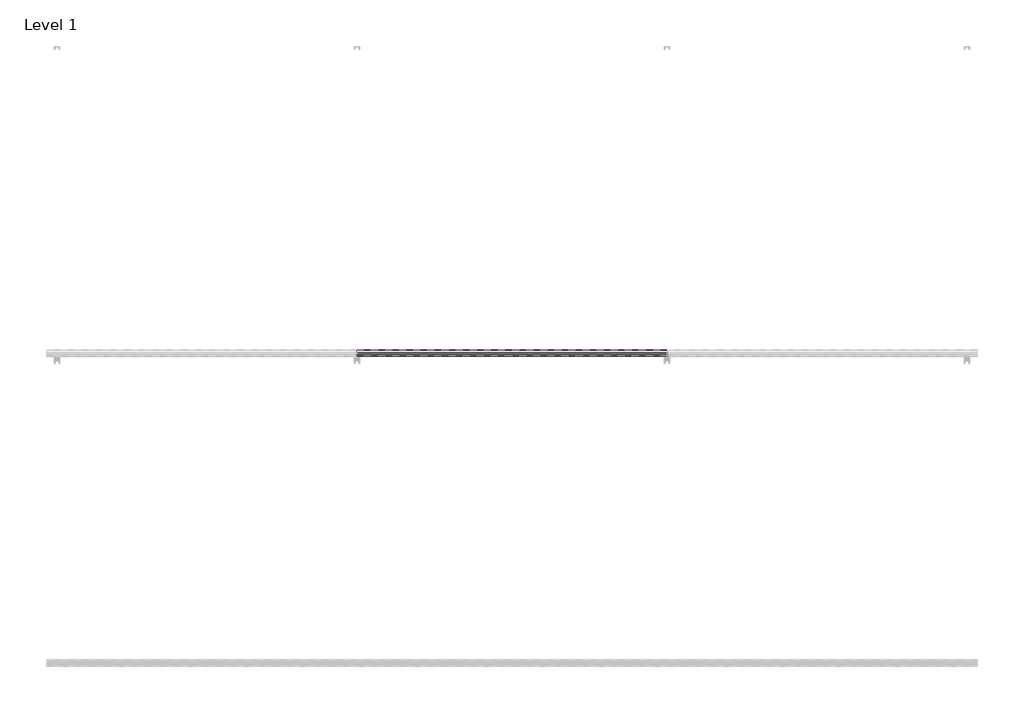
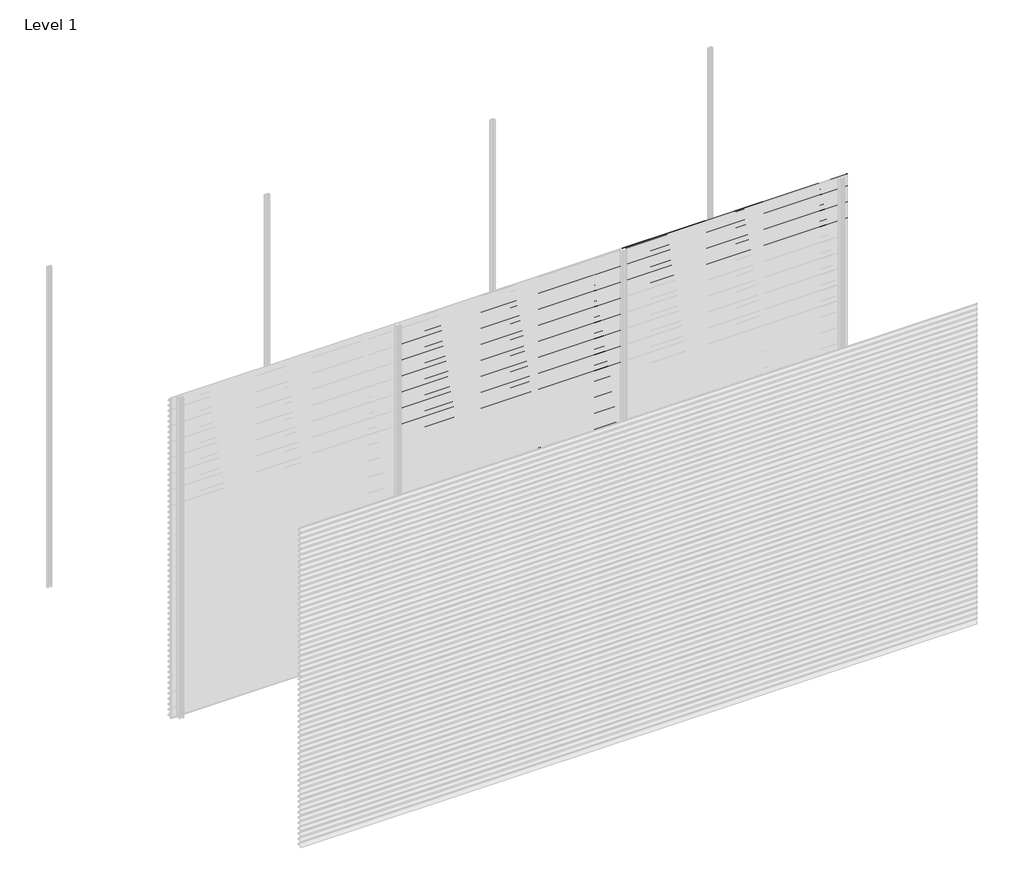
# One storey, part 30 of 38: 66 proxies.
"""IFC4 building model written with IfcOpenShell, lengths in millimetres."""

import ifcopenshell
import ifcopenshell.guid

model = None  # the IFC model being written
_history = None  # IfcOwnerHistory: only IFC2X3 demands one
_inside = {}  # id of a spatial element -> (the spatial element, [elements in it])
_under = {}  # id of a project, library or spatial element -> (it, [spatial elements below it])
_declared = {}  # id of a project -> (the project, [libraries it declares])
_typed = {}  # id of a type object -> (the type object, [elements of that type])
_made_of = {}  # id of a material, layer set ... -> (it, [elements and type objects made of it])


def new_model(schema):
    """Start an empty IFC model of exactly this schema.

    Asked for "IFC4X3", IfcOpenShell would pick the latest addendum, in which some entities
    have other attributes; the version numbers below select the first issue.
    IFC2X3 requires an IfcOwnerHistory on every rooted entity: one is made here for all.
    """
    global model, _history
    if schema == "IFC4X3":
        model = ifcopenshell.file(schema_version=(4, 3, 0, 0))
    else:
        model = ifcopenshell.file(schema=schema)
    _inside.clear()
    _under.clear()
    _declared.clear()
    _typed.clear()
    _made_of.clear()
    _history = None
    if model.schema == "IFC2X3":
        org = make("IfcOrganization", Name="unknown")
        user = make(
            "IfcPersonAndOrganization",
            ThePerson=make("IfcPerson", FamilyName="unknown"),
            TheOrganization=org,
        )
        app = make(
            "IfcApplication",
            ApplicationDeveloper=org,
            Version="unknown",
            ApplicationFullName="unknown",
            ApplicationIdentifier="unknown",
        )
        _history = make(
            "IfcOwnerHistory",
            OwningUser=user,
            OwningApplication=app,
            ChangeAction="ADDED",
            CreationDate=0,
        )
    return model


def make(cls, **values):
    """One entity of the class cls with the attributes given. An attribute that is None is left unset."""
    return model.create_entity(
        cls, **{name: value for name, value in values.items() if value is not None}
    )


def rooted(cls, **values):
    """An entity with a GlobalId (a new one), such as an element, a storey or a relation."""
    return make(cls, GlobalId=ifcopenshell.guid.new(), OwnerHistory=_history, **values)


def si_unit(unit_type, name, prefix=None):
    """IfcSIUnit, for example si_unit("LENGTHUNIT", "METRE", prefix="MILLI")."""
    return make("IfcSIUnit", UnitType=unit_type, Prefix=prefix, Name=name)


def assignment(units):
    """IfcUnitAssignment: the units of a project."""
    return None if units is None else make("IfcUnitAssignment", Units=units)


def point(xyz):
    """IfcCartesianPoint."""
    return None if xyz is None else make("IfcCartesianPoint", Coordinates=xyz)


def direction(xyz):
    """IfcDirection."""
    return None if xyz is None else make("IfcDirection", DirectionRatios=xyz)


def frame(location, z_axis=None, x_axis=None):
    """IfcAxis2Placement3D, a coordinate frame: its origin and axes. An axis left out is left unset."""
    return make(
        "IfcAxis2Placement3D",
        Location=point(location),
        Axis=direction(z_axis),
        RefDirection=direction(x_axis),
    )


def origin():
    """The frame at (0, 0, 0) with its axes left unset."""
    return frame((0.0, 0.0, 0.0))


def place(relative_to, where):
    """IfcLocalPlacement: puts the frame where relative to a parent placement (None: the world)."""
    return make(
        "IfcLocalPlacement", PlacementRelTo=relative_to, RelativePlacement=where
    )


def context(
    kind, dimensions, precision=None, world=None, true_north=None, identifier=None
):
    """IfcGeometricRepresentationContext, for example the 3D "Model" context."""
    return make(
        "IfcGeometricRepresentationContext",
        ContextIdentifier=identifier,
        ContextType=kind,
        CoordinateSpaceDimension=dimensions,
        Precision=precision,
        WorldCoordinateSystem=world,
        TrueNorth=true_north,
    )


def project(units=None, contexts=None):
    """IfcProject with its units and contexts."""
    return rooted(
        "IfcProject",
        Name="project",
        RepresentationContexts=contexts,
        UnitsInContext=assignment(units),
    )


def spatial(cls, under=None, at=None, **own):
    """A site, building, storey or space (cls), placed at a placement, below another one or the project."""
    s = rooted(cls, ObjectPlacement=at, **own)
    if under is not None:
        _under.setdefault(under.id(), (under, []))[1].append(s)
    return s


def polyline(points):
    """IfcPolyline through the points."""
    return make("IfcPolyline", Points=[point(p) for p in points])


def outline(outer, holes=None, kind="AREA"):
    """IfcArbitraryClosedProfileDef: a profile drawn as a closed curve; with holes, ...WithVoids."""
    if holes is None:
        return make("IfcArbitraryClosedProfileDef", ProfileType=kind, OuterCurve=outer)
    return make(
        "IfcArbitraryProfileDefWithVoids",
        ProfileType=kind,
        OuterCurve=outer,
        InnerCurves=holes,
    )


def extrude(swept, where, along, depth):
    """IfcExtrudedAreaSolid: the profile swept, set in the frame where, extruded along a direction by depth."""
    return make(
        "IfcExtrudedAreaSolid",
        SweptArea=swept,
        Position=where,
        ExtrudedDirection=direction(along),
        Depth=depth,
    )


def shape(context_of_items, identifier, shape_type, items):
    """IfcShapeRepresentation: the items that make up one representation, for example the "Body"."""
    return make(
        "IfcShapeRepresentation",
        ContextOfItems=context_of_items,
        RepresentationIdentifier=identifier,
        RepresentationType=shape_type,
        Items=items,
    )


def made_of(thing, what):
    """Note that an element or type object is made of a material, layer set ...; save() writes the relation."""
    if what is not None:
        _made_of.setdefault(what.id(), (what, []))[1].append(thing)
    return thing


def element(
    cls,
    number,
    at=None,
    inside=None,
    cuts=None,
    type_object=None,
    material=None,
    context=None,
    identifier="Body",
    shape_type=None,
    held_by="IfcProductDefinitionShape",
    body=None,
    shapes=None,
    **own,
):
    """One element of the class cls, such as IfcWall. Its Tag is "e" and its number.

    at: its placement. inside: the storey or other place that contains it. cuts: it is an
    opening in that element (IfcRelVoidsElement). A single representation is given by context,
    identifier, shape_type and body (its items); several are given by shapes. held_by: the class
    of the entity that holds the representations. save() writes the other relations.
    """
    e = rooted(cls, Tag="e%d" % number, ObjectPlacement=at, **own)
    if body is not None:
        shapes = [shape(context, identifier, shape_type, body)]
    if shapes is not None:
        e.Representation = make(held_by, Representations=shapes)
    if inside is not None:
        _inside.setdefault(inside.id(), (inside, []))[1].append(e)
    if cuts is not None:
        rooted(
            "IfcRelVoidsElement", RelatingBuildingElement=cuts, RelatedOpeningElement=e
        )
    if type_object is not None:
        _typed.setdefault(type_object.id(), (type_object, []))[1].append(e)
    return made_of(e, material)


def aggregate(whole, parts):
    """IfcRelAggregates: a whole, such as a stair, and the parts it consists of."""
    return rooted("IfcRelAggregates", RelatingObject=whole, RelatedObjects=parts)


def save(model, path):
    """Write the relations noted so far, then the file.

    IfcRelAggregates (storeys below a building ...), IfcRelContainedInSpatialStructure (elements
    in a storey), IfcRelDefinesByType, IfcRelAssociatesMaterial and IfcRelDeclares: one each for
    every whole, place, type object, material and project.
    """
    for whole, parts in _under.values():
        aggregate(whole, parts)
    for where, things in _inside.values():
        rooted(
            "IfcRelContainedInSpatialStructure",
            RelatedElements=things,
            RelatingStructure=where,
        )
    for kind, things in _typed.values():
        rooted("IfcRelDefinesByType", RelatedObjects=things, RelatingType=kind)
    for what, things in _made_of.values():
        rooted("IfcRelAssociatesMaterial", RelatedObjects=things, RelatingMaterial=what)
    for by, libraries in _declared.values():
        rooted("IfcRelDeclares", RelatingContext=by, RelatedDefinitions=libraries)
    model.write(path)


model = new_model("IFC4")

# Units and contexts
model_context = context("Model", 3, world=origin())
ifc_project = project(units=[si_unit("LENGTHUNIT", "METRE", prefix="MILLI")], contexts=[model_context])

# Site, building, storey
site = spatial("IfcSite", under=ifc_project)
building = spatial("IfcBuilding", under=site)
storey = spatial("IfcBuildingStorey", under=building, Name="Level 1", Elevation=0.0)

# Proxies
placement = place(None, origin())
element("IfcBuildingElementProxy", 1, Name="Wall Sweeps", at=placement, inside=storey, context=model_context, shape_type="SweptSolid", body=[
    extrude(outline(polyline([(-11996.75, 2850.0), (-11996.75, 2839.19656), (-11974.6057113, 2826.4115489), (-11957.0, 2809.0472005), (-11957.0, 2794.0472005), (-11958.3, 2795.0268207), (-11958.3, 2808.5034593), (-11969.4914725, 2819.541504), (-11994.2797376, 2790.0), (-11995.9767671, 2790.0), (-11970.4200307, 2820.4573323), (-11975.3999793, 2825.3690091), (-11998.0, 2838.4171371), (-11998.0, 2850.0), (-11996.75, 2850.0)])), frame((2000.0, 0.0, 0.0), z_axis=(1.0, 0.0, 0.0), x_axis=(0.0, 1.0, 0.0)), (0.0, 0.0, 1.0), 2000.0),
])
element("IfcBuildingElementProxy", 2, Name="Wall Sweeps", at=placement, inside=storey, context=model_context, shape_type="SweptSolid", body=[
    extrude(outline(polyline([(-11996.75, 2800.0), (-11996.75, 2789.19656), (-11974.6057113, 2776.4115489), (-11957.0, 2759.0472005), (-11957.0, 2744.0472005), (-11958.3, 2745.0268207), (-11958.3, 2758.5034593), (-11969.4914725, 2769.541504), (-11994.2797376, 2740.0), (-11995.9767671, 2740.0), (-11970.4200307, 2770.4573323), (-11975.3999793, 2775.3690091), (-11998.0, 2788.4171371), (-11998.0, 2800.0), (-11996.75, 2800.0)])), frame((2000.0, 0.0, 0.0), z_axis=(1.0, 0.0, 0.0), x_axis=(0.0, 1.0, 0.0)), (0.0, 0.0, 1.0), 2000.0),
])
element("IfcBuildingElementProxy", 3, Name="Wall Sweeps", at=placement, inside=storey, context=model_context, shape_type="SweptSolid", body=[
    extrude(outline(polyline([(-11996.75, 2750.0), (-11996.75, 2739.19656), (-11974.6057113, 2726.4115489), (-11957.0, 2709.0472005), (-11957.0, 2694.0472005), (-11958.3, 2695.0268207), (-11958.3, 2708.5034593), (-11969.4914725, 2719.541504), (-11994.2797376, 2690.0), (-11995.9767671, 2690.0), (-11970.4200307, 2720.4573323), (-11975.3999793, 2725.3690091), (-11998.0, 2738.4171371), (-11998.0, 2750.0), (-11996.75, 2750.0)])), frame((2000.0, 0.0, 0.0), z_axis=(1.0, 0.0, 0.0), x_axis=(0.0, 1.0, 0.0)), (0.0, 0.0, 1.0), 2000.0),
])
element("IfcBuildingElementProxy", 4, Name="Wall Sweeps", at=placement, inside=storey, context=model_context, shape_type="SweptSolid", body=[
    extrude(outline(polyline([(-11996.75, 2700.0), (-11996.75, 2689.19656), (-11974.6057113, 2676.4115489), (-11957.0, 2659.0472005), (-11957.0, 2644.0472005), (-11958.3, 2645.0268207), (-11958.3, 2658.5034593), (-11969.4914725, 2669.541504), (-11994.2797376, 2640.0), (-11995.9767671, 2640.0), (-11970.4200307, 2670.4573323), (-11975.3999793, 2675.3690091), (-11998.0, 2688.4171371), (-11998.0, 2700.0), (-11996.75, 2700.0)])), frame((2000.0, 0.0, 0.0), z_axis=(1.0, 0.0, 0.0), x_axis=(0.0, 1.0, 0.0)), (0.0, 0.0, 1.0), 2000.0),
])
element("IfcBuildingElementProxy", 5, Name="Wall Sweeps", at=placement, inside=storey, context=model_context, shape_type="SweptSolid", body=[
    extrude(outline(polyline([(-11996.75, 2650.0), (-11996.75, 2639.19656), (-11974.6057113, 2626.4115489), (-11957.0, 2609.0472005), (-11957.0, 2594.0472005), (-11958.3, 2595.0268207), (-11958.3, 2608.5034593), (-11969.4914725, 2619.541504), (-11994.2797376, 2590.0), (-11995.9767671, 2590.0), (-11970.4200307, 2620.4573323), (-11975.3999793, 2625.3690091), (-11998.0, 2638.4171371), (-11998.0, 2650.0), (-11996.75, 2650.0)])), frame((2000.0, 0.0, 0.0), z_axis=(1.0, 0.0, 0.0), x_axis=(0.0, 1.0, 0.0)), (0.0, 0.0, 1.0), 2000.0),
])
element("IfcBuildingElementProxy", 6, Name="Wall Sweeps", at=placement, inside=storey, context=model_context, shape_type="SweptSolid", body=[
    extrude(outline(polyline([(-11996.75, 2600.0), (-11996.75, 2589.19656), (-11974.6057113, 2576.4115489), (-11957.0, 2559.0472005), (-11957.0, 2544.0472005), (-11958.3, 2545.0268207), (-11958.3, 2558.5034593), (-11969.4914725, 2569.541504), (-11994.2797376, 2540.0), (-11995.9767671, 2540.0), (-11970.4200307, 2570.4573323), (-11975.3999793, 2575.3690091), (-11998.0, 2588.4171371), (-11998.0, 2600.0), (-11996.75, 2600.0)])), frame((2000.0, 0.0, 0.0), z_axis=(1.0, 0.0, 0.0), x_axis=(0.0, 1.0, 0.0)), (0.0, 0.0, 1.0), 2000.0),
])
element("IfcBuildingElementProxy", 7, Name="Wall Sweeps", at=placement, inside=storey, context=model_context, shape_type="SweptSolid", body=[
    extrude(outline(polyline([(-11996.75, 2550.0), (-11996.75, 2539.19656), (-11974.6057113, 2526.4115489), (-11957.0, 2509.0472005), (-11957.0, 2494.0472005), (-11958.3, 2495.0268207), (-11958.3, 2508.5034593), (-11969.4914725, 2519.541504), (-11994.2797376, 2490.0), (-11995.9767671, 2490.0), (-11970.4200307, 2520.4573323), (-11975.3999793, 2525.3690091), (-11998.0, 2538.4171371), (-11998.0, 2550.0), (-11996.75, 2550.0)])), frame((2000.0, 0.0, 0.0), z_axis=(1.0, 0.0, 0.0), x_axis=(0.0, 1.0, 0.0)), (0.0, 0.0, 1.0), 2000.0),
])
element("IfcBuildingElementProxy", 8, Name="Wall Sweeps", at=placement, inside=storey, context=model_context, shape_type="SweptSolid", body=[
    extrude(outline(polyline([(-11996.75, 2500.0), (-11996.75, 2489.19656), (-11974.6057113, 2476.4115489), (-11957.0, 2459.0472005), (-11957.0, 2444.0472005), (-11958.3, 2445.0268207), (-11958.3, 2458.5034593), (-11969.4914725, 2469.541504), (-11994.2797376, 2440.0), (-11995.9767671, 2440.0), (-11970.4200307, 2470.4573323), (-11975.3999793, 2475.3690091), (-11998.0, 2488.4171371), (-11998.0, 2500.0), (-11996.75, 2500.0)])), frame((2000.0, 0.0, 0.0), z_axis=(1.0, 0.0, 0.0), x_axis=(0.0, 1.0, 0.0)), (0.0, 0.0, 1.0), 2000.0),
])
element("IfcBuildingElementProxy", 9, Name="Wall Sweeps", at=placement, inside=storey, context=model_context, shape_type="SweptSolid", body=[
    extrude(outline(polyline([(-11996.75, 2450.0), (-11996.75, 2439.19656), (-11974.6057113, 2426.4115489), (-11957.0, 2409.0472005), (-11957.0, 2394.0472005), (-11958.3, 2395.0268207), (-11958.3, 2408.5034593), (-11969.4914725, 2419.541504), (-11994.2797376, 2390.0), (-11995.9767671, 2390.0), (-11970.4200307, 2420.4573323), (-11975.3999793, 2425.3690091), (-11998.0, 2438.4171371), (-11998.0, 2450.0), (-11996.75, 2450.0)])), frame((2000.0, 0.0, 0.0), z_axis=(1.0, 0.0, 0.0), x_axis=(0.0, 1.0, 0.0)), (0.0, 0.0, 1.0), 2000.0),
])
element("IfcBuildingElementProxy", 10, Name="Wall Sweeps", at=placement, inside=storey, context=model_context, shape_type="SweptSolid", body=[
    extrude(outline(polyline([(-11996.75, 2400.0), (-11996.75, 2389.19656), (-11974.6057113, 2376.4115489), (-11957.0, 2359.0472005), (-11957.0, 2344.0472005), (-11958.3, 2345.0268207), (-11958.3, 2358.5034593), (-11969.4914725, 2369.541504), (-11994.2797376, 2340.0), (-11995.9767671, 2340.0), (-11970.4200307, 2370.4573323), (-11975.3999793, 2375.3690091), (-11998.0, 2388.4171371), (-11998.0, 2400.0), (-11996.75, 2400.0)])), frame((2000.0, 0.0, 0.0), z_axis=(1.0, 0.0, 0.0), x_axis=(0.0, 1.0, 0.0)), (0.0, 0.0, 1.0), 2000.0),
])
element("IfcBuildingElementProxy", 11, Name="Wall Sweeps", at=placement, inside=storey, context=model_context, shape_type="SweptSolid", body=[
    extrude(outline(polyline([(-11996.75, 2350.0), (-11996.75, 2339.19656), (-11974.6057113, 2326.4115489), (-11957.0, 2309.0472005), (-11957.0, 2294.0472005), (-11958.3, 2295.0268207), (-11958.3, 2308.5034593), (-11969.4914725, 2319.541504), (-11994.2797376, 2290.0), (-11995.9767671, 2290.0), (-11970.4200307, 2320.4573323), (-11975.3999793, 2325.3690091), (-11998.0, 2338.4171371), (-11998.0, 2350.0), (-11996.75, 2350.0)])), frame((2000.0, 0.0, 0.0), z_axis=(1.0, 0.0, 0.0), x_axis=(0.0, 1.0, 0.0)), (0.0, 0.0, 1.0), 2000.0),
])
element("IfcBuildingElementProxy", 12, Name="Wall Sweeps", at=placement, inside=storey, context=model_context, shape_type="SweptSolid", body=[
    extrude(outline(polyline([(-11996.75, 2300.0), (-11996.75, 2289.19656), (-11974.6057113, 2276.4115489), (-11957.0, 2259.0472005), (-11957.0, 2244.0472005), (-11958.3, 2245.0268207), (-11958.3, 2258.5034593), (-11969.4914725, 2269.541504), (-11994.2797376, 2240.0), (-11995.9767671, 2240.0), (-11970.4200307, 2270.4573323), (-11975.3999793, 2275.3690091), (-11998.0, 2288.4171371), (-11998.0, 2300.0), (-11996.75, 2300.0)])), frame((2000.0, 0.0, 0.0), z_axis=(1.0, 0.0, 0.0), x_axis=(0.0, 1.0, 0.0)), (0.0, 0.0, 1.0), 2000.0),
])
element("IfcBuildingElementProxy", 13, Name="Wall Sweeps", at=placement, inside=storey, context=model_context, shape_type="SweptSolid", body=[
    extrude(outline(polyline([(-11996.75, 2250.0), (-11996.75, 2239.19656), (-11974.6057113, 2226.4115489), (-11957.0, 2209.0472005), (-11957.0, 2194.0472005), (-11958.3, 2195.0268207), (-11958.3, 2208.5034593), (-11969.4914725, 2219.541504), (-11994.2797376, 2190.0), (-11995.9767671, 2190.0), (-11970.4200307, 2220.4573323), (-11975.3999793, 2225.3690091), (-11998.0, 2238.4171371), (-11998.0, 2250.0), (-11996.75, 2250.0)])), frame((2000.0, 0.0, 0.0), z_axis=(1.0, 0.0, 0.0), x_axis=(0.0, 1.0, 0.0)), (0.0, 0.0, 1.0), 2000.0),
])
element("IfcBuildingElementProxy", 14, Name="Wall Sweeps", at=placement, inside=storey, context=model_context, shape_type="SweptSolid", body=[
    extrude(outline(polyline([(-11996.75, 2200.0), (-11996.75, 2189.19656), (-11974.6057113, 2176.4115489), (-11957.0, 2159.0472005), (-11957.0, 2144.0472005), (-11958.3, 2145.0268207), (-11958.3, 2158.5034593), (-11969.4914725, 2169.541504), (-11994.2797376, 2140.0), (-11995.9767671, 2140.0), (-11970.4200307, 2170.4573323), (-11975.3999793, 2175.3690091), (-11998.0, 2188.4171371), (-11998.0, 2200.0), (-11996.75, 2200.0)])), frame((2000.0, 0.0, 0.0), z_axis=(1.0, 0.0, 0.0), x_axis=(0.0, 1.0, 0.0)), (0.0, 0.0, 1.0), 2000.0),
])
element("IfcBuildingElementProxy", 15, Name="Wall Sweeps", at=placement, inside=storey, context=model_context, shape_type="SweptSolid", body=[
    extrude(outline(polyline([(-11996.75, 2150.0), (-11996.75, 2139.19656), (-11974.6057113, 2126.4115489), (-11957.0, 2109.0472005), (-11957.0, 2094.0472005), (-11958.3, 2095.0268207), (-11958.3, 2108.5034593), (-11969.4914725, 2119.541504), (-11994.2797376, 2090.0), (-11995.9767671, 2090.0), (-11970.4200307, 2120.4573323), (-11975.3999793, 2125.3690091), (-11998.0, 2138.4171371), (-11998.0, 2150.0), (-11996.75, 2150.0)])), frame((2000.0, 0.0, 0.0), z_axis=(1.0, 0.0, 0.0), x_axis=(0.0, 1.0, 0.0)), (0.0, 0.0, 1.0), 2000.0),
])
element("IfcBuildingElementProxy", 16, Name="Wall Sweeps", at=placement, inside=storey, context=model_context, shape_type="SweptSolid", body=[
    extrude(outline(polyline([(-11996.75, 2100.0), (-11996.75, 2089.19656), (-11974.6057113, 2076.4115489), (-11957.0, 2059.0472005), (-11957.0, 2044.0472005), (-11958.3, 2045.0268207), (-11958.3, 2058.5034593), (-11969.4914725, 2069.541504), (-11994.2797376, 2040.0), (-11995.9767671, 2040.0), (-11970.4200307, 2070.4573323), (-11975.3999793, 2075.3690091), (-11998.0, 2088.4171371), (-11998.0, 2100.0), (-11996.75, 2100.0)])), frame((2000.0, 0.0, 0.0), z_axis=(1.0, 0.0, 0.0), x_axis=(0.0, 1.0, 0.0)), (0.0, 0.0, 1.0), 2000.0),
])
element("IfcBuildingElementProxy", 17, Name="Wall Sweeps", at=placement, inside=storey, context=model_context, shape_type="SweptSolid", body=[
    extrude(outline(polyline([(-11996.75, 2050.0), (-11996.75, 2039.19656), (-11974.6057113, 2026.4115489), (-11957.0, 2009.0472005), (-11957.0, 1994.0472005), (-11958.3, 1995.0268207), (-11958.3, 2008.5034593), (-11969.4914725, 2019.541504), (-11994.2797376, 1990.0), (-11995.9767671, 1990.0), (-11970.4200307, 2020.4573323), (-11975.3999793, 2025.3690091), (-11998.0, 2038.4171371), (-11998.0, 2050.0), (-11996.75, 2050.0)])), frame((2000.0, 0.0, 0.0), z_axis=(1.0, 0.0, 0.0), x_axis=(0.0, 1.0, 0.0)), (0.0, 0.0, 1.0), 2000.0),
])
element("IfcBuildingElementProxy", 18, Name="Wall Sweeps", at=placement, inside=storey, context=model_context, shape_type="SweptSolid", body=[
    extrude(outline(polyline([(-11996.75, 2000.0), (-11996.75, 1989.19656), (-11974.6057113, 1976.4115489), (-11957.0, 1959.0472005), (-11957.0, 1944.0472005), (-11958.3, 1945.0268207), (-11958.3, 1958.5034593), (-11969.4914725, 1969.541504), (-11994.2797376, 1940.0), (-11995.9767671, 1940.0), (-11970.4200307, 1970.4573323), (-11975.3999793, 1975.3690091), (-11998.0, 1988.4171371), (-11998.0, 2000.0), (-11996.75, 2000.0)])), frame((2000.0, 0.0, 0.0), z_axis=(1.0, 0.0, 0.0), x_axis=(0.0, 1.0, 0.0)), (0.0, 0.0, 1.0), 2000.0),
])
element("IfcBuildingElementProxy", 19, Name="Wall Sweeps", at=placement, inside=storey, context=model_context, shape_type="SweptSolid", body=[
    extrude(outline(polyline([(-11996.75, 1950.0), (-11996.75, 1939.19656), (-11974.6057113, 1926.4115489), (-11957.0, 1909.0472005), (-11957.0, 1894.0472005), (-11958.3, 1895.0268207), (-11958.3, 1908.5034593), (-11969.4914725, 1919.541504), (-11994.2797376, 1890.0), (-11995.9767671, 1890.0), (-11970.4200307, 1920.4573323), (-11975.3999793, 1925.3690091), (-11998.0, 1938.4171371), (-11998.0, 1950.0), (-11996.75, 1950.0)])), frame((2000.0, 0.0, 0.0), z_axis=(1.0, 0.0, 0.0), x_axis=(0.0, 1.0, 0.0)), (0.0, 0.0, 1.0), 2000.0),
])
element("IfcBuildingElementProxy", 20, Name="Wall Sweeps", at=placement, inside=storey, context=model_context, shape_type="SweptSolid", body=[
    extrude(outline(polyline([(-11996.75, 1900.0), (-11996.75, 1889.19656), (-11974.6057113, 1876.4115489), (-11957.0, 1859.0472005), (-11957.0, 1844.0472005), (-11958.3, 1845.0268207), (-11958.3, 1858.5034593), (-11969.4914725, 1869.541504), (-11994.2797376, 1840.0), (-11995.9767671, 1840.0), (-11970.4200307, 1870.4573323), (-11975.3999793, 1875.3690091), (-11998.0, 1888.4171371), (-11998.0, 1900.0), (-11996.75, 1900.0)])), frame((2000.0, 0.0, 0.0), z_axis=(1.0, 0.0, 0.0), x_axis=(0.0, 1.0, 0.0)), (0.0, 0.0, 1.0), 2000.0),
])
element("IfcBuildingElementProxy", 21, Name="Wall Sweeps", at=placement, inside=storey, context=model_context, shape_type="SweptSolid", body=[
    extrude(outline(polyline([(-11996.75, 1850.0), (-11996.75, 1839.19656), (-11974.6057113, 1826.4115489), (-11957.0, 1809.0472005), (-11957.0, 1794.0472005), (-11958.3, 1795.0268207), (-11958.3, 1808.5034593), (-11969.4914725, 1819.541504), (-11994.2797376, 1790.0), (-11995.9767671, 1790.0), (-11970.4200307, 1820.4573323), (-11975.3999793, 1825.3690091), (-11998.0, 1838.4171371), (-11998.0, 1850.0), (-11996.75, 1850.0)])), frame((2000.0, 0.0, 0.0), z_axis=(1.0, 0.0, 0.0), x_axis=(0.0, 1.0, 0.0)), (0.0, 0.0, 1.0), 2000.0),
])
element("IfcBuildingElementProxy", 22, Name="Wall Sweeps", at=placement, inside=storey, context=model_context, shape_type="SweptSolid", body=[
    extrude(outline(polyline([(-11996.75, 1800.0), (-11996.75, 1789.19656), (-11974.6057113, 1776.4115489), (-11957.0, 1759.0472005), (-11957.0, 1744.0472005), (-11958.3, 1745.0268207), (-11958.3, 1758.5034593), (-11969.4914725, 1769.541504), (-11994.2797376, 1740.0), (-11995.9767671, 1740.0), (-11970.4200307, 1770.4573323), (-11975.3999793, 1775.3690091), (-11998.0, 1788.4171371), (-11998.0, 1800.0), (-11996.75, 1800.0)])), frame((2000.0, 0.0, 0.0), z_axis=(1.0, 0.0, 0.0), x_axis=(0.0, 1.0, 0.0)), (0.0, 0.0, 1.0), 2000.0),
])
element("IfcBuildingElementProxy", 23, Name="Wall Sweeps", at=placement, inside=storey, context=model_context, shape_type="SweptSolid", body=[
    extrude(outline(polyline([(-11996.75, 1750.0), (-11996.75, 1739.19656), (-11974.6057113, 1726.4115489), (-11957.0, 1709.0472005), (-11957.0, 1694.0472005), (-11958.3, 1695.0268207), (-11958.3, 1708.5034593), (-11969.4914725, 1719.541504), (-11994.2797376, 1690.0), (-11995.9767671, 1690.0), (-11970.4200307, 1720.4573323), (-11975.3999793, 1725.3690091), (-11998.0, 1738.4171371), (-11998.0, 1750.0), (-11996.75, 1750.0)])), frame((2000.0, 0.0, 0.0), z_axis=(1.0, 0.0, 0.0), x_axis=(0.0, 1.0, 0.0)), (0.0, 0.0, 1.0), 2000.0),
])
element("IfcBuildingElementProxy", 24, Name="Wall Sweeps", at=placement, inside=storey, context=model_context, shape_type="SweptSolid", body=[
    extrude(outline(polyline([(-11996.75, 1700.0), (-11996.75, 1689.19656), (-11974.6057113, 1676.4115489), (-11957.0, 1659.0472005), (-11957.0, 1644.0472005), (-11958.3, 1645.0268207), (-11958.3, 1658.5034593), (-11969.4914725, 1669.541504), (-11994.2797376, 1640.0), (-11995.9767671, 1640.0), (-11970.4200307, 1670.4573323), (-11975.3999793, 1675.3690091), (-11998.0, 1688.4171371), (-11998.0, 1700.0), (-11996.75, 1700.0)])), frame((2000.0, 0.0, 0.0), z_axis=(1.0, 0.0, 0.0), x_axis=(0.0, 1.0, 0.0)), (0.0, 0.0, 1.0), 2000.0),
])
element("IfcBuildingElementProxy", 25, Name="Wall Sweeps", at=placement, inside=storey, context=model_context, shape_type="SweptSolid", body=[
    extrude(outline(polyline([(-11996.75, 1650.0), (-11996.75, 1639.19656), (-11974.6057113, 1626.4115489), (-11957.0, 1609.0472005), (-11957.0, 1594.0472005), (-11958.3, 1595.0268207), (-11958.3, 1608.5034593), (-11969.4914725, 1619.541504), (-11994.2797376, 1590.0), (-11995.9767671, 1590.0), (-11970.4200307, 1620.4573323), (-11975.3999793, 1625.3690091), (-11998.0, 1638.4171371), (-11998.0, 1650.0), (-11996.75, 1650.0)])), frame((2000.0, 0.0, 0.0), z_axis=(1.0, 0.0, 0.0), x_axis=(0.0, 1.0, 0.0)), (0.0, 0.0, 1.0), 2000.0),
])
element("IfcBuildingElementProxy", 26, Name="Wall Sweeps", at=placement, inside=storey, context=model_context, shape_type="SweptSolid", body=[
    extrude(outline(polyline([(-11996.75, 1600.0), (-11996.75, 1589.19656), (-11974.6057113, 1576.4115489), (-11957.0, 1559.0472005), (-11957.0, 1544.0472005), (-11958.3, 1545.0268207), (-11958.3, 1558.5034593), (-11969.4914725, 1569.541504), (-11994.2797376, 1540.0), (-11995.9767671, 1540.0), (-11970.4200307, 1570.4573323), (-11975.3999793, 1575.3690091), (-11998.0, 1588.4171371), (-11998.0, 1600.0), (-11996.75, 1600.0)])), frame((2000.0, 0.0, 0.0), z_axis=(1.0, 0.0, 0.0), x_axis=(0.0, 1.0, 0.0)), (0.0, 0.0, 1.0), 2000.0),
])
element("IfcBuildingElementProxy", 27, Name="Wall Sweeps", at=placement, inside=storey, context=model_context, shape_type="SweptSolid", body=[
    extrude(outline(polyline([(-11996.75, 1550.0), (-11996.75, 1539.19656), (-11974.6057113, 1526.4115489), (-11957.0, 1509.0472005), (-11957.0, 1494.0472005), (-11958.3, 1495.0268207), (-11958.3, 1508.5034593), (-11969.4914725, 1519.541504), (-11994.2797376, 1490.0), (-11995.9767671, 1490.0), (-11970.4200307, 1520.4573323), (-11975.3999793, 1525.3690091), (-11998.0, 1538.4171371), (-11998.0, 1550.0), (-11996.75, 1550.0)])), frame((2000.0, 0.0, 0.0), z_axis=(1.0, 0.0, 0.0), x_axis=(0.0, 1.0, 0.0)), (0.0, 0.0, 1.0), 2000.0),
])
element("IfcBuildingElementProxy", 28, Name="Wall Sweeps", at=placement, inside=storey, context=model_context, shape_type="SweptSolid", body=[
    extrude(outline(polyline([(-11996.75, 1500.0), (-11996.75, 1489.19656), (-11974.6057113, 1476.4115489), (-11957.0, 1459.0472005), (-11957.0, 1444.0472005), (-11958.3, 1445.0268207), (-11958.3, 1458.5034593), (-11969.4914725, 1469.541504), (-11994.2797376, 1440.0), (-11995.9767671, 1440.0), (-11970.4200307, 1470.4573323), (-11975.3999793, 1475.3690091), (-11998.0, 1488.4171371), (-11998.0, 1500.0), (-11996.75, 1500.0)])), frame((2000.0, 0.0, 0.0), z_axis=(1.0, 0.0, 0.0), x_axis=(0.0, 1.0, 0.0)), (0.0, 0.0, 1.0), 2000.0),
])
element("IfcBuildingElementProxy", 29, Name="Wall Sweeps", at=placement, inside=storey, context=model_context, shape_type="SweptSolid", body=[
    extrude(outline(polyline([(-11996.75, 1450.0), (-11996.75, 1439.19656), (-11974.6057113, 1426.4115489), (-11957.0, 1409.0472005), (-11957.0, 1394.0472005), (-11958.3, 1395.0268207), (-11958.3, 1408.5034593), (-11969.4914725, 1419.541504), (-11994.2797376, 1390.0), (-11995.9767671, 1390.0), (-11970.4200307, 1420.4573323), (-11975.3999793, 1425.3690091), (-11998.0, 1438.4171371), (-11998.0, 1450.0), (-11996.75, 1450.0)])), frame((2000.0, 0.0, 0.0), z_axis=(1.0, 0.0, 0.0), x_axis=(0.0, 1.0, 0.0)), (0.0, 0.0, 1.0), 2000.0),
])
element("IfcBuildingElementProxy", 30, Name="Wall Sweeps", at=placement, inside=storey, context=model_context, shape_type="SweptSolid", body=[
    extrude(outline(polyline([(-11996.75, 1400.0), (-11996.75, 1389.19656), (-11974.6057113, 1376.4115489), (-11957.0, 1359.0472005), (-11957.0, 1344.0472005), (-11958.3, 1345.0268207), (-11958.3, 1358.5034593), (-11969.4914725, 1369.541504), (-11994.2797376, 1340.0), (-11995.9767671, 1340.0), (-11970.4200307, 1370.4573323), (-11975.3999793, 1375.3690091), (-11998.0, 1388.4171371), (-11998.0, 1400.0), (-11996.75, 1400.0)])), frame((2000.0, 0.0, 0.0), z_axis=(1.0, 0.0, 0.0), x_axis=(0.0, 1.0, 0.0)), (0.0, 0.0, 1.0), 2000.0),
])
element("IfcBuildingElementProxy", 31, Name="Wall Sweeps", at=placement, inside=storey, context=model_context, shape_type="SweptSolid", body=[
    extrude(outline(polyline([(-11996.75, 1350.0), (-11996.75, 1339.19656), (-11974.6057113, 1326.4115489), (-11957.0, 1309.0472005), (-11957.0, 1294.0472005), (-11958.3, 1295.0268207), (-11958.3, 1308.5034593), (-11969.4914725, 1319.541504), (-11994.2797376, 1290.0), (-11995.9767671, 1290.0), (-11970.4200307, 1320.4573323), (-11975.3999793, 1325.3690091), (-11998.0, 1338.4171371), (-11998.0, 1350.0), (-11996.75, 1350.0)])), frame((2000.0, 0.0, 0.0), z_axis=(1.0, 0.0, 0.0), x_axis=(0.0, 1.0, 0.0)), (0.0, 0.0, 1.0), 2000.0),
])
element("IfcBuildingElementProxy", 32, Name="Wall Sweeps", at=placement, inside=storey, context=model_context, shape_type="SweptSolid", body=[
    extrude(outline(polyline([(-11996.75, 1300.0), (-11996.75, 1289.19656), (-11974.6057113, 1276.4115489), (-11957.0, 1259.0472005), (-11957.0, 1244.0472005), (-11958.3, 1245.0268207), (-11958.3, 1258.5034593), (-11969.4914725, 1269.541504), (-11994.2797376, 1240.0), (-11995.9767671, 1240.0), (-11970.4200307, 1270.4573323), (-11975.3999793, 1275.3690091), (-11998.0, 1288.4171371), (-11998.0, 1300.0), (-11996.75, 1300.0)])), frame((2000.0, 0.0, 0.0), z_axis=(1.0, 0.0, 0.0), x_axis=(0.0, 1.0, 0.0)), (0.0, 0.0, 1.0), 2000.0),
])
element("IfcBuildingElementProxy", 33, Name="Wall Sweeps", at=placement, inside=storey, context=model_context, shape_type="SweptSolid", body=[
    extrude(outline(polyline([(-11996.75, 1250.0), (-11996.75, 1239.19656), (-11974.6057113, 1226.4115489), (-11957.0, 1209.0472005), (-11957.0, 1194.0472005), (-11958.3, 1195.0268207), (-11958.3, 1208.5034593), (-11969.4914725, 1219.541504), (-11994.2797376, 1190.0), (-11995.9767671, 1190.0), (-11970.4200307, 1220.4573323), (-11975.3999793, 1225.3690091), (-11998.0, 1238.4171371), (-11998.0, 1250.0), (-11996.75, 1250.0)])), frame((2000.0, 0.0, 0.0), z_axis=(1.0, 0.0, 0.0), x_axis=(0.0, 1.0, 0.0)), (0.0, 0.0, 1.0), 2000.0),
])
element("IfcBuildingElementProxy", 34, Name="Wall Sweeps", at=placement, inside=storey, context=model_context, shape_type="SweptSolid", body=[
    extrude(outline(polyline([(-11996.75, 1200.0), (-11996.75, 1189.19656), (-11974.6057113, 1176.4115489), (-11957.0, 1159.0472005), (-11957.0, 1144.0472005), (-11958.3, 1145.0268207), (-11958.3, 1158.5034593), (-11969.4914725, 1169.541504), (-11994.2797376, 1140.0), (-11995.9767671, 1140.0), (-11970.4200307, 1170.4573323), (-11975.3999793, 1175.3690091), (-11998.0, 1188.4171371), (-11998.0, 1200.0), (-11996.75, 1200.0)])), frame((2000.0, 0.0, 0.0), z_axis=(1.0, 0.0, 0.0), x_axis=(0.0, 1.0, 0.0)), (0.0, 0.0, 1.0), 2000.0),
])
element("IfcBuildingElementProxy", 35, Name="Wall Sweeps", at=placement, inside=storey, context=model_context, shape_type="SweptSolid", body=[
    extrude(outline(polyline([(-11996.75, 1150.0), (-11996.75, 1139.19656), (-11974.6057113, 1126.4115489), (-11957.0, 1109.0472005), (-11957.0, 1094.0472005), (-11958.3, 1095.0268207), (-11958.3, 1108.5034593), (-11969.4914725, 1119.541504), (-11994.2797376, 1090.0), (-11995.9767671, 1090.0), (-11970.4200307, 1120.4573323), (-11975.3999793, 1125.3690091), (-11998.0, 1138.4171371), (-11998.0, 1150.0), (-11996.75, 1150.0)])), frame((2000.0, 0.0, 0.0), z_axis=(1.0, 0.0, 0.0), x_axis=(0.0, 1.0, 0.0)), (0.0, 0.0, 1.0), 2000.0),
])
element("IfcBuildingElementProxy", 36, Name="Wall Sweeps", at=placement, inside=storey, context=model_context, shape_type="SweptSolid", body=[
    extrude(outline(polyline([(-11996.75, 1100.0), (-11996.75, 1089.19656), (-11974.6057113, 1076.4115489), (-11957.0, 1059.0472005), (-11957.0, 1044.0472005), (-11958.3, 1045.0268207), (-11958.3, 1058.5034593), (-11969.4914725, 1069.541504), (-11994.2797376, 1040.0), (-11995.9767671, 1040.0), (-11970.4200307, 1070.4573323), (-11975.3999793, 1075.3690091), (-11998.0, 1088.4171371), (-11998.0, 1100.0), (-11996.75, 1100.0)])), frame((2000.0, 0.0, 0.0), z_axis=(1.0, 0.0, 0.0), x_axis=(0.0, 1.0, 0.0)), (0.0, 0.0, 1.0), 2000.0),
])
element("IfcBuildingElementProxy", 37, Name="Wall Sweeps", at=placement, inside=storey, context=model_context, shape_type="SweptSolid", body=[
    extrude(outline(polyline([(-11996.75, 1050.0), (-11996.75, 1039.19656), (-11974.6057113, 1026.4115489), (-11957.0, 1009.0472005), (-11957.0, 994.0472005), (-11958.3, 995.0268207), (-11958.3, 1008.5034593), (-11969.4914725, 1019.541504), (-11994.2797376, 990.0), (-11995.9767671, 990.0), (-11970.4200307, 1020.4573323), (-11975.3999793, 1025.3690091), (-11998.0, 1038.4171371), (-11998.0, 1050.0), (-11996.75, 1050.0)])), frame((2000.0, 0.0, 0.0), z_axis=(1.0, 0.0, 0.0), x_axis=(0.0, 1.0, 0.0)), (0.0, 0.0, 1.0), 2000.0),
])
element("IfcBuildingElementProxy", 38, Name="Wall Sweeps", at=placement, inside=storey, context=model_context, shape_type="SweptSolid", body=[
    extrude(outline(polyline([(-11996.75, 1000.0), (-11996.75, 989.19656), (-11974.6057113, 976.4115489), (-11957.0, 959.0472005), (-11957.0, 944.0472005), (-11958.3, 945.0268207), (-11958.3, 958.5034593), (-11969.4914725, 969.541504), (-11994.2797376, 940.0), (-11995.9767671, 940.0), (-11970.4200307, 970.4573323), (-11975.3999793, 975.3690091), (-11998.0, 988.4171371), (-11998.0, 1000.0), (-11996.75, 1000.0)])), frame((2000.0, 0.0, 0.0), z_axis=(1.0, 0.0, 0.0), x_axis=(0.0, 1.0, 0.0)), (0.0, 0.0, 1.0), 2000.0),
])
element("IfcBuildingElementProxy", 39, Name="Wall Sweeps", at=placement, inside=storey, context=model_context, shape_type="SweptSolid", body=[
    extrude(outline(polyline([(-11996.75, 950.0), (-11996.75, 939.19656), (-11974.6057113, 926.4115489), (-11957.0, 909.0472005), (-11957.0, 894.0472005), (-11958.3, 895.0268207), (-11958.3, 908.5034593), (-11969.4914725, 919.541504), (-11994.2797376, 890.0), (-11995.9767671, 890.0), (-11970.4200307, 920.4573323), (-11975.3999793, 925.3690091), (-11998.0, 938.4171371), (-11998.0, 950.0), (-11996.75, 950.0)])), frame((2000.0, 0.0, 0.0), z_axis=(1.0, 0.0, 0.0), x_axis=(0.0, 1.0, 0.0)), (0.0, 0.0, 1.0), 2000.0),
])
element("IfcBuildingElementProxy", 40, Name="Wall Sweeps", at=placement, inside=storey, context=model_context, shape_type="SweptSolid", body=[
    extrude(outline(polyline([(-11996.75, 900.0), (-11996.75, 889.19656), (-11974.6057113, 876.4115489), (-11957.0, 859.0472005), (-11957.0, 844.0472005), (-11958.3, 845.0268207), (-11958.3, 858.5034593), (-11969.4914725, 869.541504), (-11994.2797376, 840.0), (-11995.9767671, 840.0), (-11970.4200307, 870.4573323), (-11975.3999793, 875.3690091), (-11998.0, 888.4171371), (-11998.0, 900.0), (-11996.75, 900.0)])), frame((2000.0, 0.0, 0.0), z_axis=(1.0, 0.0, 0.0), x_axis=(0.0, 1.0, 0.0)), (0.0, 0.0, 1.0), 2000.0),
])
element("IfcBuildingElementProxy", 41, Name="Wall Sweeps", at=placement, inside=storey, context=model_context, shape_type="SweptSolid", body=[
    extrude(outline(polyline([(-11996.75, 850.0), (-11996.75, 839.19656), (-11974.6057113, 826.4115489), (-11957.0, 809.0472005), (-11957.0, 794.0472005), (-11958.3, 795.0268207), (-11958.3, 808.5034593), (-11969.4914725, 819.541504), (-11994.2797376, 790.0), (-11995.9767671, 790.0), (-11970.4200307, 820.4573323), (-11975.3999793, 825.3690091), (-11998.0, 838.4171371), (-11998.0, 850.0), (-11996.75, 850.0)])), frame((2000.0, 0.0, 0.0), z_axis=(1.0, 0.0, 0.0), x_axis=(0.0, 1.0, 0.0)), (0.0, 0.0, 1.0), 2000.0),
])
element("IfcBuildingElementProxy", 42, Name="Wall Sweeps", at=placement, inside=storey, context=model_context, shape_type="SweptSolid", body=[
    extrude(outline(polyline([(-11996.75, 800.0), (-11996.75, 789.19656), (-11974.6057113, 776.4115489), (-11957.0, 759.0472005), (-11957.0, 744.0472005), (-11958.3, 745.0268207), (-11958.3, 758.5034593), (-11969.4914725, 769.541504), (-11994.2797376, 740.0), (-11995.9767671, 740.0), (-11970.4200307, 770.4573323), (-11975.3999793, 775.3690091), (-11998.0, 788.4171371), (-11998.0, 800.0), (-11996.75, 800.0)])), frame((2000.0, 0.0, 0.0), z_axis=(1.0, 0.0, 0.0), x_axis=(0.0, 1.0, 0.0)), (0.0, 0.0, 1.0), 2000.0),
])
element("IfcBuildingElementProxy", 43, Name="Wall Sweeps", at=placement, inside=storey, context=model_context, shape_type="SweptSolid", body=[
    extrude(outline(polyline([(-11996.75, 750.0), (-11996.75, 739.19656), (-11974.6057113, 726.4115489), (-11957.0, 709.0472005), (-11957.0, 694.0472005), (-11958.3, 695.0268207), (-11958.3, 708.5034593), (-11969.4914725, 719.541504), (-11994.2797376, 690.0), (-11995.9767671, 690.0), (-11970.4200307, 720.4573323), (-11975.3999793, 725.3690091), (-11998.0, 738.4171371), (-11998.0, 750.0), (-11996.75, 750.0)])), frame((2000.0, 0.0, 0.0), z_axis=(1.0, 0.0, 0.0), x_axis=(0.0, 1.0, 0.0)), (0.0, 0.0, 1.0), 2000.0),
])
element("IfcBuildingElementProxy", 44, Name="Wall Sweeps", at=placement, inside=storey, context=model_context, shape_type="SweptSolid", body=[
    extrude(outline(polyline([(-11996.75, 700.0), (-11996.75, 689.19656), (-11974.6057113, 676.4115489), (-11957.0, 659.0472005), (-11957.0, 644.0472005), (-11958.3, 645.0268207), (-11958.3, 658.5034593), (-11969.4914725, 669.541504), (-11994.2797376, 640.0), (-11995.9767671, 640.0), (-11970.4200307, 670.4573323), (-11975.3999793, 675.3690091), (-11998.0, 688.4171371), (-11998.0, 700.0), (-11996.75, 700.0)])), frame((2000.0, 0.0, 0.0), z_axis=(1.0, 0.0, 0.0), x_axis=(0.0, 1.0, 0.0)), (0.0, 0.0, 1.0), 2000.0),
])
element("IfcBuildingElementProxy", 45, Name="Wall Sweeps", at=placement, inside=storey, context=model_context, shape_type="SweptSolid", body=[
    extrude(outline(polyline([(-11996.75, 650.0), (-11996.75, 639.19656), (-11974.6057113, 626.4115489), (-11957.0, 609.0472005), (-11957.0, 594.0472005), (-11958.3, 595.0268207), (-11958.3, 608.5034593), (-11969.4914725, 619.541504), (-11994.2797376, 590.0), (-11995.9767671, 590.0), (-11970.4200307, 620.4573323), (-11975.3999793, 625.3690091), (-11998.0, 638.4171371), (-11998.0, 650.0), (-11996.75, 650.0)])), frame((2000.0, 0.0, 0.0), z_axis=(1.0, 0.0, 0.0), x_axis=(0.0, 1.0, 0.0)), (0.0, 0.0, 1.0), 2000.0),
])
element("IfcBuildingElementProxy", 46, Name="Wall Sweeps", at=placement, inside=storey, context=model_context, shape_type="SweptSolid", body=[
    extrude(outline(polyline([(-11996.75, 600.0), (-11996.75, 589.19656), (-11974.6057113, 576.4115489), (-11957.0, 559.0472005), (-11957.0, 544.0472005), (-11958.3, 545.0268207), (-11958.3, 558.5034593), (-11969.4914725, 569.541504), (-11994.2797376, 540.0), (-11995.9767671, 540.0), (-11970.4200307, 570.4573323), (-11975.3999793, 575.3690091), (-11998.0, 588.4171371), (-11998.0, 600.0), (-11996.75, 600.0)])), frame((2000.0, 0.0, 0.0), z_axis=(1.0, 0.0, 0.0), x_axis=(0.0, 1.0, 0.0)), (0.0, 0.0, 1.0), 2000.0),
])
element("IfcBuildingElementProxy", 47, Name="Wall Sweeps", at=placement, inside=storey, context=model_context, shape_type="SweptSolid", body=[
    extrude(outline(polyline([(-11996.75, 550.0), (-11996.75, 539.19656), (-11974.6057113, 526.4115489), (-11957.0, 509.0472005), (-11957.0, 494.0472005), (-11958.3, 495.0268207), (-11958.3, 508.5034593), (-11969.4914725, 519.541504), (-11994.2797376, 490.0), (-11995.9767671, 490.0), (-11970.4200307, 520.4573323), (-11975.3999793, 525.3690091), (-11998.0, 538.4171371), (-11998.0, 550.0), (-11996.75, 550.0)])), frame((2000.0, 0.0, 0.0), z_axis=(1.0, 0.0, 0.0), x_axis=(0.0, 1.0, 0.0)), (0.0, 0.0, 1.0), 2000.0),
])
element("IfcBuildingElementProxy", 48, Name="Wall Sweeps", at=placement, inside=storey, context=model_context, shape_type="SweptSolid", body=[
    extrude(outline(polyline([(-11996.75, 500.0), (-11996.75, 489.19656), (-11974.6057113, 476.4115489), (-11957.0, 459.0472005), (-11957.0, 444.0472005), (-11958.3, 445.0268207), (-11958.3, 458.5034593), (-11969.4914725, 469.541504), (-11994.2797376, 440.0), (-11995.9767671, 440.0), (-11970.4200307, 470.4573323), (-11975.3999793, 475.3690091), (-11998.0, 488.4171371), (-11998.0, 500.0), (-11996.75, 500.0)])), frame((2000.0, 0.0, 0.0), z_axis=(1.0, 0.0, 0.0), x_axis=(0.0, 1.0, 0.0)), (0.0, 0.0, 1.0), 2000.0),
])
element("IfcBuildingElementProxy", 49, Name="Wall Sweeps", at=placement, inside=storey, context=model_context, shape_type="SweptSolid", body=[
    extrude(outline(polyline([(-11996.75, 450.0), (-11996.75, 439.19656), (-11974.6057113, 426.4115489), (-11957.0, 409.0472005), (-11957.0, 394.0472005), (-11958.3, 395.0268207), (-11958.3, 408.5034593), (-11969.4914725, 419.541504), (-11994.2797376, 390.0), (-11995.9767671, 390.0), (-11970.4200307, 420.4573323), (-11975.3999793, 425.3690091), (-11998.0, 438.4171371), (-11998.0, 450.0), (-11996.75, 450.0)])), frame((2000.0, 0.0, 0.0), z_axis=(1.0, 0.0, 0.0), x_axis=(0.0, 1.0, 0.0)), (0.0, 0.0, 1.0), 2000.0),
])
element("IfcBuildingElementProxy", 50, Name="Wall Sweeps", at=placement, inside=storey, context=model_context, shape_type="SweptSolid", body=[
    extrude(outline(polyline([(-11996.75, 400.0), (-11996.75, 389.19656), (-11974.6057113, 376.4115489), (-11957.0, 359.0472005), (-11957.0, 344.0472005), (-11958.3, 345.0268207), (-11958.3, 358.5034593), (-11969.4914725, 369.541504), (-11994.2797376, 340.0), (-11995.9767671, 340.0), (-11970.4200307, 370.4573323), (-11975.3999793, 375.3690091), (-11998.0, 388.4171371), (-11998.0, 400.0), (-11996.75, 400.0)])), frame((2000.0, 0.0, 0.0), z_axis=(1.0, 0.0, 0.0), x_axis=(0.0, 1.0, 0.0)), (0.0, 0.0, 1.0), 2000.0),
])
element("IfcBuildingElementProxy", 51, Name="Wall Sweeps", at=placement, inside=storey, context=model_context, shape_type="SweptSolid", body=[
    extrude(outline(polyline([(-11996.75, 350.0), (-11996.75, 339.19656), (-11974.6057113, 326.4115489), (-11957.0, 309.0472005), (-11957.0, 294.0472005), (-11958.3, 295.0268207), (-11958.3, 308.5034593), (-11969.4914725, 319.541504), (-11994.2797376, 290.0), (-11995.9767671, 290.0), (-11970.4200307, 320.4573323), (-11975.3999793, 325.3690091), (-11998.0, 338.4171371), (-11998.0, 350.0), (-11996.75, 350.0)])), frame((2000.0, 0.0, 0.0), z_axis=(1.0, 0.0, 0.0), x_axis=(0.0, 1.0, 0.0)), (0.0, 0.0, 1.0), 2000.0),
])
element("IfcBuildingElementProxy", 52, Name="Wall Sweeps", at=placement, inside=storey, context=model_context, shape_type="SweptSolid", body=[
    extrude(outline(polyline([(-11996.75, 300.0), (-11996.75, 289.19656), (-11974.6057113, 276.4115489), (-11957.0, 259.0472005), (-11957.0, 244.0472005), (-11958.3, 245.0268207), (-11958.3, 258.5034593), (-11969.4914725, 269.541504), (-11994.2797376, 240.0), (-11995.9767671, 240.0), (-11970.4200307, 270.4573323), (-11975.3999793, 275.3690091), (-11998.0, 288.4171371), (-11998.0, 300.0), (-11996.75, 300.0)])), frame((2000.0, 0.0, 0.0), z_axis=(1.0, 0.0, 0.0), x_axis=(0.0, 1.0, 0.0)), (0.0, 0.0, 1.0), 2000.0),
])
element("IfcBuildingElementProxy", 53, Name="Wall Sweeps", at=placement, inside=storey, context=model_context, shape_type="SweptSolid", body=[
    extrude(outline(polyline([(-11996.75, 250.0), (-11996.75, 239.19656), (-11974.6057113, 226.4115489), (-11957.0, 209.0472005), (-11957.0, 194.0472005), (-11958.3, 195.0268207), (-11958.3, 208.5034593), (-11969.4914725, 219.541504), (-11994.2797376, 190.0), (-11995.9767671, 190.0), (-11970.4200307, 220.4573323), (-11975.3999793, 225.3690091), (-11998.0, 238.4171371), (-11998.0, 250.0), (-11996.75, 250.0)])), frame((2000.0, 0.0, 0.0), z_axis=(1.0, 0.0, 0.0), x_axis=(0.0, 1.0, 0.0)), (0.0, 0.0, 1.0), 2000.0),
])
element("IfcBuildingElementProxy", 54, Name="Wall Sweeps", at=placement, inside=storey, context=model_context, shape_type="SweptSolid", body=[
    extrude(outline(polyline([(-11996.75, 200.0), (-11996.75, 189.19656), (-11974.6057113, 176.4115489), (-11957.0, 159.0472005), (-11957.0, 144.0472005), (-11958.3, 145.0268207), (-11958.3, 158.5034593), (-11969.4914725, 169.541504), (-11994.2797376, 140.0), (-11995.9767671, 140.0), (-11970.4200307, 170.4573323), (-11975.3999793, 175.3690091), (-11998.0, 188.4171371), (-11998.0, 200.0), (-11996.75, 200.0)])), frame((2000.0, 0.0, 0.0), z_axis=(1.0, 0.0, 0.0), x_axis=(0.0, 1.0, 0.0)), (0.0, 0.0, 1.0), 2000.0),
])
element("IfcBuildingElementProxy", 55, Name="Wall Sweeps", at=placement, inside=storey, context=model_context, shape_type="SweptSolid", body=[
    extrude(outline(polyline([(-11996.75, 150.0), (-11996.75, 139.19656), (-11974.6057113, 126.4115489), (-11957.0, 109.0472005), (-11957.0, 94.0472005), (-11958.3, 95.0268207), (-11958.3, 108.5034593), (-11969.4914725, 119.541504), (-11994.2797376, 90.0), (-11995.9767671, 90.0), (-11970.4200307, 120.4573323), (-11975.3999793, 125.3690091), (-11998.0, 138.4171371), (-11998.0, 150.0), (-11996.75, 150.0)])), frame((2000.0, 0.0, 0.0), z_axis=(1.0, 0.0, 0.0), x_axis=(0.0, 1.0, 0.0)), (0.0, 0.0, 1.0), 2000.0),
])
element("IfcBuildingElementProxy", 56, Name="Wall Sweeps", at=placement, inside=storey, context=model_context, shape_type="SweptSolid", body=[
    extrude(outline(polyline([(-11996.75, 100.0), (-11996.75, 89.19656), (-11974.6057113, 76.4115489), (-11957.0, 59.0472005), (-11957.0, 44.0472005), (-11958.3, 45.0268207), (-11958.3, 58.5034593), (-11969.4914725, 69.541504), (-11994.2797376, 40.0), (-11995.9767671, 40.0), (-11970.4200307, 70.4573323), (-11975.3999793, 75.3690091), (-11998.0, 88.4171371), (-11998.0, 100.0), (-11996.75, 100.0)])), frame((2000.0, 0.0, 0.0), z_axis=(1.0, 0.0, 0.0), x_axis=(0.0, 1.0, 0.0)), (0.0, 0.0, 1.0), 2000.0),
])
element("IfcBuildingElementProxy", 57, Name="Wall Sweeps", at=placement, inside=storey, context=model_context, shape_type="SweptSolid", body=[
    extrude(outline(polyline([(-11996.75, 50.0), (-11996.75, 39.19656), (-11974.6057113, 26.4115489), (-11957.0, 9.0472005), (-11957.0, -5.9527995), (-11958.3, -4.9731793), (-11958.3, 8.5034593), (-11969.4914725, 19.541504), (-11994.2797376, -10.0), (-11995.9767671, -10.0), (-11970.4200307, 20.4573323), (-11975.3999793, 25.3690091), (-11998.0, 38.4171371), (-11998.0, 50.0), (-11996.75, 50.0)])), frame((2000.0, 0.0, 0.0), z_axis=(1.0, 0.0, 0.0), x_axis=(0.0, 1.0, 0.0)), (0.0, 0.0, 1.0), 2000.0),
])
element("IfcBuildingElementProxy", 58, Name="Wall Sweeps", at=placement, inside=storey, context=model_context, shape_type="SweptSolid", body=[
    extrude(outline(polyline([(-11996.75, 3000.0), (-11996.75, 2989.19656), (-11974.6057113, 2976.4115489), (-11957.0, 2959.0472005), (-11957.0, 2944.0472005), (-11958.3, 2945.0268207), (-11958.3, 2958.5034593), (-11969.4914725, 2969.541504), (-11994.2797376, 2940.0), (-11995.9767671, 2940.0), (-11970.4200307, 2970.4573323), (-11975.3999793, 2975.3690091), (-11998.0, 2988.4171371), (-11998.0, 3000.0), (-11996.75, 3000.0)])), frame((4000.0, 0.0, 0.0), z_axis=(1.0, 0.0, 0.0), x_axis=(0.0, 1.0, 0.0)), (0.0, 0.0, 1.0), 2000.0),
])
element("IfcBuildingElementProxy", 59, Name="Wall Sweeps", at=placement, inside=storey, context=model_context, shape_type="SweptSolid", body=[
    extrude(outline(polyline([(-11996.75, 2950.0), (-11996.75, 2939.19656), (-11974.6057113, 2926.4115489), (-11957.0, 2909.0472005), (-11957.0, 2894.0472005), (-11958.3, 2895.0268207), (-11958.3, 2908.5034593), (-11969.4914725, 2919.541504), (-11994.2797376, 2890.0), (-11995.9767671, 2890.0), (-11970.4200307, 2920.4573323), (-11975.3999793, 2925.3690091), (-11998.0, 2938.4171371), (-11998.0, 2950.0), (-11996.75, 2950.0)])), frame((4000.0, 0.0, 0.0), z_axis=(1.0, 0.0, 0.0), x_axis=(0.0, 1.0, 0.0)), (0.0, 0.0, 1.0), 2000.0),
])
element("IfcBuildingElementProxy", 60, Name="Wall Sweeps", at=placement, inside=storey, context=model_context, shape_type="SweptSolid", body=[
    extrude(outline(polyline([(-11996.75, 2900.0), (-11996.75, 2889.19656), (-11974.6057113, 2876.4115489), (-11957.0, 2859.0472005), (-11957.0, 2844.0472005), (-11958.3, 2845.0268207), (-11958.3, 2858.5034593), (-11969.4914725, 2869.541504), (-11994.2797376, 2840.0), (-11995.9767671, 2840.0), (-11970.4200307, 2870.4573323), (-11975.3999793, 2875.3690091), (-11998.0, 2888.4171371), (-11998.0, 2900.0), (-11996.75, 2900.0)])), frame((4000.0, 0.0, 0.0), z_axis=(1.0, 0.0, 0.0), x_axis=(0.0, 1.0, 0.0)), (0.0, 0.0, 1.0), 2000.0),
])
element("IfcBuildingElementProxy", 61, Name="Wall Sweeps", at=placement, inside=storey, context=model_context, shape_type="SweptSolid", body=[
    extrude(outline(polyline([(-11996.75, 2850.0), (-11996.75, 2839.19656), (-11974.6057113, 2826.4115489), (-11957.0, 2809.0472005), (-11957.0, 2794.0472005), (-11958.3, 2795.0268207), (-11958.3, 2808.5034593), (-11969.4914725, 2819.541504), (-11994.2797376, 2790.0), (-11995.9767671, 2790.0), (-11970.4200307, 2820.4573323), (-11975.3999793, 2825.3690091), (-11998.0, 2838.4171371), (-11998.0, 2850.0), (-11996.75, 2850.0)])), frame((4000.0, 0.0, 0.0), z_axis=(1.0, 0.0, 0.0), x_axis=(0.0, 1.0, 0.0)), (0.0, 0.0, 1.0), 2000.0),
])
element("IfcBuildingElementProxy", 62, Name="Wall Sweeps", at=placement, inside=storey, context=model_context, shape_type="SweptSolid", body=[
    extrude(outline(polyline([(-11996.75, 2800.0), (-11996.75, 2789.19656), (-11974.6057113, 2776.4115489), (-11957.0, 2759.0472005), (-11957.0, 2744.0472005), (-11958.3, 2745.0268207), (-11958.3, 2758.5034593), (-11969.4914725, 2769.541504), (-11994.2797376, 2740.0), (-11995.9767671, 2740.0), (-11970.4200307, 2770.4573323), (-11975.3999793, 2775.3690091), (-11998.0, 2788.4171371), (-11998.0, 2800.0), (-11996.75, 2800.0)])), frame((4000.0, 0.0, 0.0), z_axis=(1.0, 0.0, 0.0), x_axis=(0.0, 1.0, 0.0)), (0.0, 0.0, 1.0), 2000.0),
])
element("IfcBuildingElementProxy", 63, Name="Wall Sweeps", at=placement, inside=storey, context=model_context, shape_type="SweptSolid", body=[
    extrude(outline(polyline([(-11996.75, 2750.0), (-11996.75, 2739.19656), (-11974.6057113, 2726.4115489), (-11957.0, 2709.0472005), (-11957.0, 2694.0472005), (-11958.3, 2695.0268207), (-11958.3, 2708.5034593), (-11969.4914725, 2719.541504), (-11994.2797376, 2690.0), (-11995.9767671, 2690.0), (-11970.4200307, 2720.4573323), (-11975.3999793, 2725.3690091), (-11998.0, 2738.4171371), (-11998.0, 2750.0), (-11996.75, 2750.0)])), frame((4000.0, 0.0, 0.0), z_axis=(1.0, 0.0, 0.0), x_axis=(0.0, 1.0, 0.0)), (0.0, 0.0, 1.0), 2000.0),
])
element("IfcBuildingElementProxy", 64, Name="Wall Sweeps", at=placement, inside=storey, context=model_context, shape_type="SweptSolid", body=[
    extrude(outline(polyline([(-11996.75, 2700.0), (-11996.75, 2689.19656), (-11974.6057113, 2676.4115489), (-11957.0, 2659.0472005), (-11957.0, 2644.0472005), (-11958.3, 2645.0268207), (-11958.3, 2658.5034593), (-11969.4914725, 2669.541504), (-11994.2797376, 2640.0), (-11995.9767671, 2640.0), (-11970.4200307, 2670.4573323), (-11975.3999793, 2675.3690091), (-11998.0, 2688.4171371), (-11998.0, 2700.0), (-11996.75, 2700.0)])), frame((4000.0, 0.0, 0.0), z_axis=(1.0, 0.0, 0.0), x_axis=(0.0, 1.0, 0.0)), (0.0, 0.0, 1.0), 2000.0),
])
element("IfcBuildingElementProxy", 65, Name="Wall Sweeps", at=placement, inside=storey, context=model_context, shape_type="SweptSolid", body=[
    extrude(outline(polyline([(-11996.75, 2650.0), (-11996.75, 2639.19656), (-11974.6057113, 2626.4115489), (-11957.0, 2609.0472005), (-11957.0, 2594.0472005), (-11958.3, 2595.0268207), (-11958.3, 2608.5034593), (-11969.4914725, 2619.541504), (-11994.2797376, 2590.0), (-11995.9767671, 2590.0), (-11970.4200307, 2620.4573323), (-11975.3999793, 2625.3690091), (-11998.0, 2638.4171371), (-11998.0, 2650.0), (-11996.75, 2650.0)])), frame((4000.0, 0.0, 0.0), z_axis=(1.0, 0.0, 0.0), x_axis=(0.0, 1.0, 0.0)), (0.0, 0.0, 1.0), 2000.0),
])
element("IfcBuildingElementProxy", 66, Name="Wall Sweeps", at=placement, inside=storey, context=model_context, shape_type="SweptSolid", body=[
    extrude(outline(polyline([(-11996.75, 2600.0), (-11996.75, 2589.19656), (-11974.6057113, 2576.4115489), (-11957.0, 2559.0472005), (-11957.0, 2544.0472005), (-11958.3, 2545.0268207), (-11958.3, 2558.5034593), (-11969.4914725, 2569.541504), (-11994.2797376, 2540.0), (-11995.9767671, 2540.0), (-11970.4200307, 2570.4573323), (-11975.3999793, 2575.3690091), (-11998.0, 2588.4171371), (-11998.0, 2600.0), (-11996.75, 2600.0)])), frame((4000.0, 0.0, 0.0), z_axis=(1.0, 0.0, 0.0), x_axis=(0.0, 1.0, 0.0)), (0.0, 0.0, 1.0), 2000.0),
])

save(model, "model.ifc")
